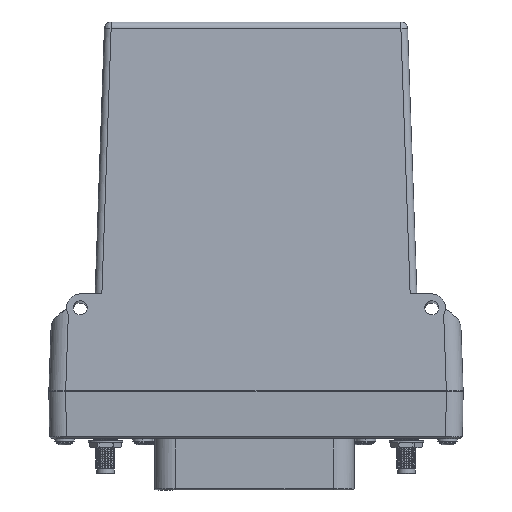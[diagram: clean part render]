
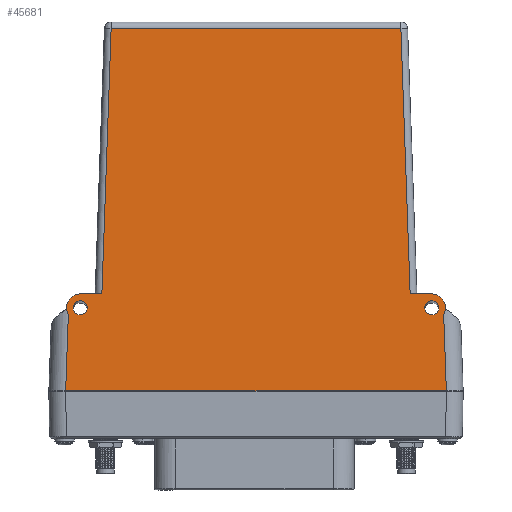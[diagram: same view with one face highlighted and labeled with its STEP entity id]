
A CAD part, front view. The second image highlights one B-rep face of the part: STEP entity #45681.
In plain terms, the highlighted planar face has unit normal (0, -0.999, 0.035).
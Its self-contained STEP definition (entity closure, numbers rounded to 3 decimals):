
#2813 = EDGE_LOOP ( 'NONE', ( #53735, #50173 ) ) ;
#3260 = DIRECTION ( 'NONE',  ( 0., -0.999, 0.035 ) ) ;
#4213 = EDGE_CURVE ( 'NONE', #19837, #95196, #87388, .T. ) ;
#4475 = VECTOR ( 'NONE', #43686, 1000. ) ;
#6250 = ORIENTED_EDGE ( 'NONE', *, *, #21975, .T. ) ;
#7150 = VERTEX_POINT ( 'NONE', #52929 ) ;
#7296 = DIRECTION ( 'NONE',  ( 0., 0.999, -0.035 ) ) ;
#8653 = ORIENTED_EDGE ( 'NONE', *, *, #60124, .T. ) ;
#11584 = DIRECTION ( 'NONE',  ( 0., -0.035, -0.999 ) ) ;
#11813 = DIRECTION ( 'NONE',  ( -1., 0., 0. ) ) ;
#13439 = AXIS2_PLACEMENT_3D ( 'NONE', #82871, #7296, #24373 ) ;
#15254 = CIRCLE ( 'NONE', #62845, 4.1 ) ;
#15601 = CARTESIAN_POINT ( 'NONE',  ( 2.193, 42.027, 61.686 ) ) ;
#16690 = EDGE_CURVE ( 'NONE', #95196, #106190, #53382, .T. ) ;
#16714 = DIRECTION ( 'NONE',  ( 0., -0.999, 0.035 ) ) ;
#18286 = CARTESIAN_POINT ( 'NONE',  ( 100.539, 42.027, 61.686 ) ) ;
#19647 = VECTOR ( 'NONE', #90541, 1000. ) ;
#19748 = EDGE_CURVE ( 'NONE', #88334, #79282, #86662, .T. ) ;
#19837 = VERTEX_POINT ( 'NONE', #43141 ) ;
#20043 = ORIENTED_EDGE ( 'NONE', *, *, #19748, .T. ) ;
#20268 = VECTOR ( 'NONE', #11813, 1000. ) ;
#20815 = CARTESIAN_POINT ( 'NONE',  ( -1.977, 41.019, 32.82 ) ) ;
#21207 = VECTOR ( 'NONE', #75184, 1000. ) ;
#21975 = EDGE_CURVE ( 'NONE', #50536, #7150, #15254, .T. ) ;
#23494 = CARTESIAN_POINT ( 'NONE',  ( 2.369, 41.884, 57.592 ) ) ;
#24373 = DIRECTION ( 'NONE',  ( 0., -0.035, -0.999 ) ) ;
#25402 = CARTESIAN_POINT ( 'NONE',  ( 97.78, 44.786, 140.69 ) ) ;
#27120 = EDGE_CURVE ( 'NONE', #103058, #19837, #73172, .T. ) ;
#27938 = VECTOR ( 'NONE', #63860, 1000. ) ;
#29995 = DIRECTION ( 'NONE',  ( 0., -0.035, -0.999 ) ) ;
#30276 = VECTOR ( 'NONE', #51692, 1000. ) ;
#32787 = VECTOR ( 'NONE', #100636, 1000. ) ;
#36906 = DIRECTION ( 'NONE',  ( 0., -0.999, 0.035 ) ) ;
#38520 = CARTESIAN_POINT ( 'NONE',  ( 106.969, 41.884, 57.592 ) ) ;
#40661 = DIRECTION ( 'NONE',  ( 0., 0.999, -0.035 ) ) ;
#41575 = FACE_BOUND ( 'NONE', #105382, .T. ) ;
#41949 = EDGE_LOOP ( 'NONE', ( #6250, #64546, #20043, #68872, #85400, #67545, #48049, #8653, #97631, #96834 ) ) ;
#42064 = LINE ( 'NONE', #85064, #21207 ) ;
#42497 = CARTESIAN_POINT ( 'NONE',  ( 110.523, 41.813, 55.548 ) ) ;
#43141 = CARTESIAN_POINT ( 'NONE',  ( 8.8, 42.027, 61.686 ) ) ;
#43686 = DIRECTION ( 'NONE',  ( -0.035, 0.035, 0.999 ) ) ;
#45620 = EDGE_CURVE ( 'NONE', #62153, #52343, #109066, .T. ) ;
#45681 = ADVANCED_FACE ( 'NONE', ( #41575, #48769, #82385 ), #75226, .T. ) ;
#46530 = VERTEX_POINT ( 'NONE', #73426 ) ;
#47704 = CIRCLE ( 'NONE', #54793, 2.1 ) ;
#48049 = ORIENTED_EDGE ( 'NONE', *, *, #16690, .T. ) ;
#48769 = FACE_BOUND ( 'NONE', #2813, .T. ) ;
#49498 = CARTESIAN_POINT ( 'NONE',  ( 2.369, 41.958, 59.691 ) ) ;
#50173 = ORIENTED_EDGE ( 'NONE', *, *, #61558, .T. ) ;
#50536 = VERTEX_POINT ( 'NONE', #42497 ) ;
#51692 = DIRECTION ( 'NONE',  ( -0.035, 0.035, 0.999 ) ) ;
#52343 = VERTEX_POINT ( 'NONE', #96089 ) ;
#52929 = CARTESIAN_POINT ( 'NONE',  ( 107.146, 42.027, 61.686 ) ) ;
#53382 = CIRCLE ( 'NONE', #56896, 4.1 ) ;
#53735 = ORIENTED_EDGE ( 'NONE', *, *, #45620, .T. ) ;
#54352 = VERTEX_POINT ( 'NONE', #20815 ) ;
#54487 = VERTEX_POINT ( 'NONE', #49498 ) ;
#54793 = AXIS2_PLACEMENT_3D ( 'NONE', #62883, #97019, #11584 ) ;
#55049 = CARTESIAN_POINT ( 'NONE',  ( -2.657, 41.019, 32.82 ) ) ;
#55761 = CIRCLE ( 'NONE', #13439, 2.1 ) ;
#56133 = AXIS2_PLACEMENT_3D ( 'NONE', #100743, #40661, #56671 ) ;
#56671 = DIRECTION ( 'NONE',  ( 0., -0.035, -0.999 ) ) ;
#56896 = AXIS2_PLACEMENT_3D ( 'NONE', #23494, #36906, #70055 ) ;
#57296 = EDGE_CURVE ( 'NONE', #46530, #50536, #68224, .T. ) ;
#57466 = LINE ( 'NONE', #74573, #19647 ) ;
#59831 = LINE ( 'NONE', #100092, #32787 ) ;
#60124 = EDGE_CURVE ( 'NONE', #106190, #54352, #42064, .T. ) ;
#61558 = EDGE_CURVE ( 'NONE', #52343, #62153, #47704, .T. ) ;
#62153 = VERTEX_POINT ( 'NONE', #77688 ) ;
#62845 = AXIS2_PLACEMENT_3D ( 'NONE', #38520, #3260, #106339 ) ;
#62883 = CARTESIAN_POINT ( 'NONE',  ( 106.969, 41.884, 57.592 ) ) ;
#63860 = DIRECTION ( 'NONE',  ( 1., 0., 0. ) ) ;
#64546 = ORIENTED_EDGE ( 'NONE', *, *, #94789, .T. ) ;
#64707 = VERTEX_POINT ( 'NONE', #102837 ) ;
#65667 = EDGE_CURVE ( 'NONE', #79282, #103058, #57466, .T. ) ;
#66812 = ORIENTED_EDGE ( 'NONE', *, *, #83826, .T. ) ;
#67545 = ORIENTED_EDGE ( 'NONE', *, *, #4213, .T. ) ;
#68224 = LINE ( 'NONE', #75969, #30276 ) ;
#68872 = ORIENTED_EDGE ( 'NONE', *, *, #65667, .T. ) ;
#70055 = DIRECTION ( 'NONE',  ( 0., -0.035, -0.999 ) ) ;
#71404 = CARTESIAN_POINT ( 'NONE',  ( -2.657, 42.027, 61.686 ) ) ;
#71953 = CARTESIAN_POINT ( 'NONE',  ( 106.969, 41.884, 57.592 ) ) ;
#73172 = LINE ( 'NONE', #106222, #75733 ) ;
#73426 = CARTESIAN_POINT ( 'NONE',  ( 111.316, 41.019, 32.82 ) ) ;
#74573 = CARTESIAN_POINT ( 'NONE',  ( -2.657, 44.786, 140.69 ) ) ;
#75184 = DIRECTION ( 'NONE',  ( -0.035, -0.035, -0.999 ) ) ;
#75226 = PLANE ( 'NONE',  #89679 ) ;
#75733 = VECTOR ( 'NONE', #82511, 1000. ) ;
#75969 = CARTESIAN_POINT ( 'NONE',  ( 111.316, 41.019, 32.82 ) ) ;
#77688 = CARTESIAN_POINT ( 'NONE',  ( 106.969, 41.811, 55.494 ) ) ;
#79282 = VERTEX_POINT ( 'NONE', #25402 ) ;
#82385 = FACE_OUTER_BOUND ( 'NONE', #41949, .T. ) ;
#82511 = DIRECTION ( 'NONE',  ( -0.035, -0.035, -0.999 ) ) ;
#82871 = CARTESIAN_POINT ( 'NONE',  ( 2.369, 41.884, 57.592 ) ) ;
#83481 = CARTESIAN_POINT ( 'NONE',  ( -2.657, 44.786, 140.69 ) ) ;
#83826 = EDGE_CURVE ( 'NONE', #54487, #64707, #55761, .T. ) ;
#84351 = AXIS2_PLACEMENT_3D ( 'NONE', #71953, #105542, #29995 ) ;
#85064 = CARTESIAN_POINT ( 'NONE',  ( -1.184, 41.813, 55.548 ) ) ;
#85400 = ORIENTED_EDGE ( 'NONE', *, *, #27120, .T. ) ;
#86662 = LINE ( 'NONE', #18286, #4475 ) ;
#87388 = LINE ( 'NONE', #71404, #20268 ) ;
#88334 = VERTEX_POINT ( 'NONE', #93354 ) ;
#89679 = AXIS2_PLACEMENT_3D ( 'NONE', #83481, #16714, #108827 ) ;
#90541 = DIRECTION ( 'NONE',  ( -1., 0., 0. ) ) ;
#90619 = EDGE_CURVE ( 'NONE', #54352, #46530, #96383, .T. ) ;
#90794 = EDGE_CURVE ( 'NONE', #64707, #54487, #103657, .T. ) ;
#93354 = CARTESIAN_POINT ( 'NONE',  ( 100.539, 42.027, 61.686 ) ) ;
#94789 = EDGE_CURVE ( 'NONE', #7150, #88334, #59831, .T. ) ;
#95196 = VERTEX_POINT ( 'NONE', #15601 ) ;
#96089 = CARTESIAN_POINT ( 'NONE',  ( 106.969, 41.958, 59.691 ) ) ;
#96383 = LINE ( 'NONE', #55049, #27938 ) ;
#96595 = CARTESIAN_POINT ( 'NONE',  ( 11.559, 44.786, 140.69 ) ) ;
#96834 = ORIENTED_EDGE ( 'NONE', *, *, #57296, .T. ) ;
#97019 = DIRECTION ( 'NONE',  ( 0., 0.999, -0.035 ) ) ;
#97631 = ORIENTED_EDGE ( 'NONE', *, *, #90619, .T. ) ;
#100092 = CARTESIAN_POINT ( 'NONE',  ( -2.657, 42.027, 61.686 ) ) ;
#100636 = DIRECTION ( 'NONE',  ( -1., 0., 0. ) ) ;
#100743 = CARTESIAN_POINT ( 'NONE',  ( 2.369, 41.884, 57.592 ) ) ;
#102329 = ORIENTED_EDGE ( 'NONE', *, *, #90794, .T. ) ;
#102533 = CARTESIAN_POINT ( 'NONE',  ( -1.184, 41.813, 55.548 ) ) ;
#102837 = CARTESIAN_POINT ( 'NONE',  ( 2.369, 41.811, 55.494 ) ) ;
#103058 = VERTEX_POINT ( 'NONE', #96595 ) ;
#103657 = CIRCLE ( 'NONE', #56133, 2.1 ) ;
#105382 = EDGE_LOOP ( 'NONE', ( #102329, #66812 ) ) ;
#105542 = DIRECTION ( 'NONE',  ( 0., 0.999, -0.035 ) ) ;
#106190 = VERTEX_POINT ( 'NONE', #102533 ) ;
#106222 = CARTESIAN_POINT ( 'NONE',  ( 11.559, 44.786, 140.69 ) ) ;
#106339 = DIRECTION ( 'NONE',  ( 0., -0.035, -0.999 ) ) ;
#108827 = DIRECTION ( 'NONE',  ( 0., -0.035, -0.999 ) ) ;
#109066 = CIRCLE ( 'NONE', #84351, 2.1 ) ;
